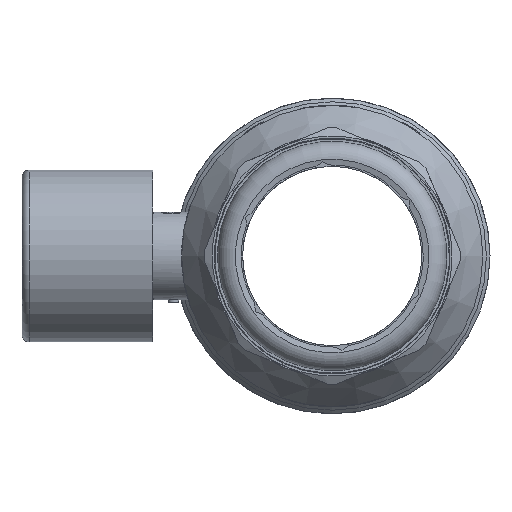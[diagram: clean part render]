
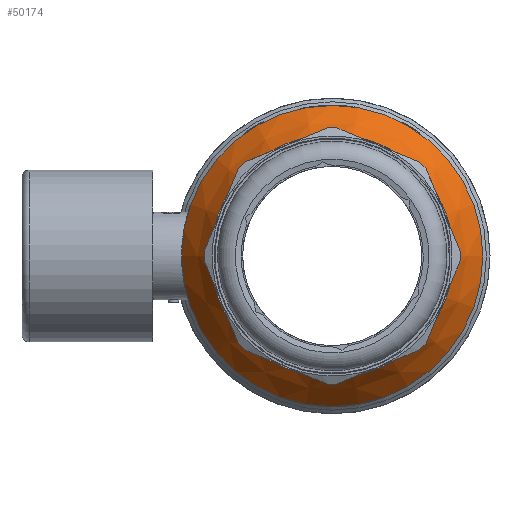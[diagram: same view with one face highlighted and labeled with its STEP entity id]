
A CAD part, left-side view. The second image highlights one B-rep face of the part: STEP entity #50174.
In plain terms, the highlighted conical face has half-angle 35 degrees and reference radius 41.1 mm.
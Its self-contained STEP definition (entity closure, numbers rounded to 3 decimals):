
#50143=CARTESIAN_POINT('',(-27.5,33.0,0.0));
#50144=VERTEX_POINT('',#50143);
#50145=CARTESIAN_POINT('',(-27.5,0.0,0.));
#50146=DIRECTION('',(1.0,0.0,0.0));
#50147=DIRECTION('',(0.0,1.0,0.0));
#50148=AXIS2_PLACEMENT_3D('',#50145,#50146,#50147);
#50149=CIRCLE('',#50148,33.0);
#50150=EDGE_CURVE('',#50144,#50144,#50149,.T.);
#50155=CARTESIAN_POINT('',(-15.932,0.0,0.));
#50156=DIRECTION('',(1.0,0.0,0.0));
#50157=DIRECTION('',(0.0,0.0,-1.0));
#50158=AXIS2_PLACEMENT_3D('',#50155,#50156,#50157);
#50159=CONICAL_SURFACE('',#50158,41.1,35.);
#50160=ORIENTED_EDGE('',*,*,#50150,.T.);
#50161=EDGE_LOOP('',(#50160));
#50162=FACE_OUTER_BOUND('',#50161,.T.);
#50163=CARTESIAN_POINT('',(-14.647,42.0,0.0));
#50164=VERTEX_POINT('',#50163);
#50165=CARTESIAN_POINT('',(-14.647,0.,0.));
#50166=DIRECTION('',(1.0,0.0,0.0));
#50167=DIRECTION('',(0.0,1.0,0.0));
#50168=AXIS2_PLACEMENT_3D('',#50165,#50166,#50167);
#50169=CIRCLE('',#50168,42.0);
#50170=EDGE_CURVE('',#50164,#50164,#50169,.T.);
#50171=ORIENTED_EDGE('',*,*,#50170,.F.);
#50172=EDGE_LOOP('',(#50171));
#50173=FACE_BOUND('',#50172,.T.);
#50174=ADVANCED_FACE('',(#50162,#50173),#50159,.T.);
